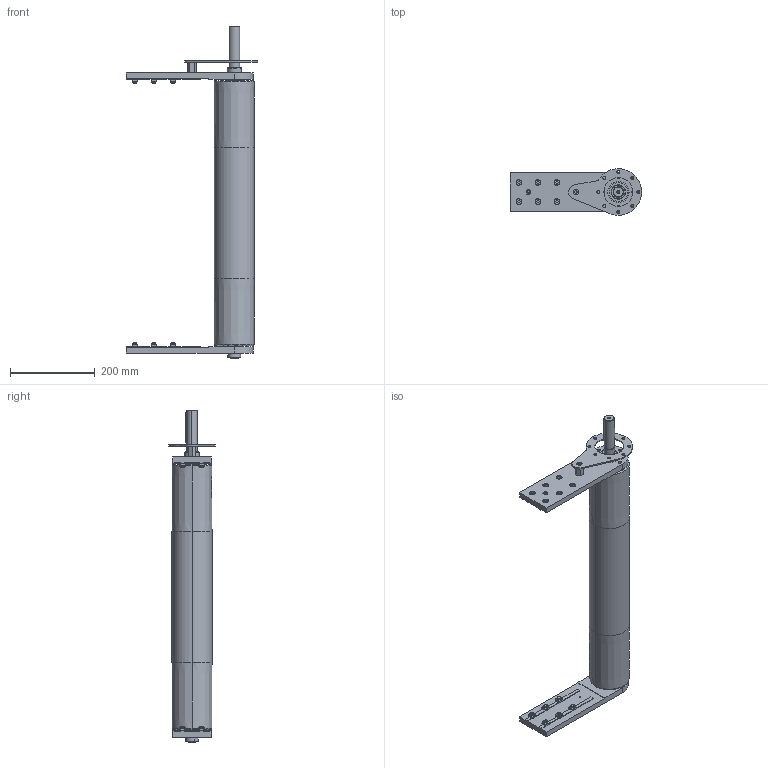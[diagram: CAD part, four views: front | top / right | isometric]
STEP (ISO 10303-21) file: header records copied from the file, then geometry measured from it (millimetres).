
FILE_DESCRIPTION (( 'STEP AP203' ), '1' );
FILE_NAME ('084.095.KD.49.600.STEP', '2014-07-03T13:23:55', ( '' ), ( '' ), 'SwSTEP 2.0', 'SolidWorks 2012', '' );
FILE_SCHEMA (( 'CONFIG_CONTROL_DESIGN' ));
Length unit declared in the file: millimetre
Products named in the file (15): 084.095.KD.49.600; circlip for shafts normal_din_Circlip DIN 471 - 30 x 1.5; CHIAVETTE_A 8x7x70 UNI 6604-69; 084.802.019_084.802.019; 084.810.003; 084.808.002_084.808.002; 084.808.003_084.808.003; 084.812.003; 084.816.110_084.816.110<A macchina>; 084.302.000 DADI ALUSIC 13x13_084.302.004; 084.301.000 VITI ALUSIC_084.301.003; 084.802.034_084.802.034; 084.812.002; 084.808.004; 084.802.027
Assembly tree (38 placements, depth 2):
  084.095.KD.49.600
    084.802.027
    084.808.004
    084.812.002
    084.802.034_084.802.034
    084.301.000 VITI ALUSIC_084.301.003  x12
    084.302.000 DADI ALUSIC 13x13_084.302.004  x12
    084.816.110_084.816.110<A macchina>
    084.812.003
    084.808.003_084.808.003
    084.808.002_084.808.002
    084.810.003  x2
    084.802.019_084.802.019
    CHIAVETTE_A 8x7x70 UNI 6604-69
    circlip for shafts normal_din_Circlip DIN 471 - 30 x 1.5  x2
Bounding box: 310 x 110 x 784.5 mm (x, y, z)
Volume: 2099315 mm3; surface area: 881541.6 mm2
Topology: 43 solids, 44 shells, 958 faces, 2371 edges, 1542 vertices
Faces by surface type: plane 408, cylinder 338, torus 92, cone 63, bspline 48, sphere 9
Entity records: 21404 total; most frequent: CARTESIAN_POINT 4312, DIRECTION 3219, ORIENTED_EDGE 3022, EDGE_CURVE 1511, AXIS2_PLACEMENT_3D 1270, VERTEX_POINT 987, EDGE_LOOP 714, CIRCLE 689
